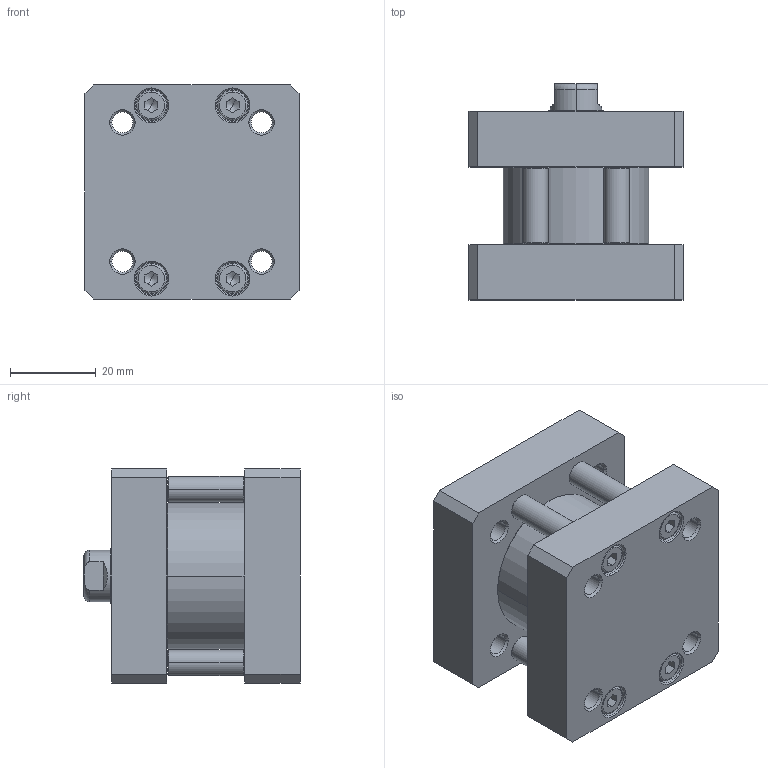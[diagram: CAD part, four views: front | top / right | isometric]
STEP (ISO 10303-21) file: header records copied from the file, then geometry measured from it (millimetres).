
FILE_DESCRIPTION(('STEP AP203'),'1');
FILE_NAME('84M32G000 - course 0mm.stp','2022-05-30T09:18:42',(' '),(' '),'Spatial InterOp 3D',' ',' ');
FILE_SCHEMA(('CONFIG_CONTROL_DESIGN'));
Length unit declared in the file: metre
Products named in the file (6): 84M32G000 - course 0mm; CORPO-000; STELO-000; TA; TIRANTE-000; TP
Assembly tree (8 placements, depth 2):
  84M32G000 - course 0mm
    CORPO-000
    STELO-000
    TA
    TIRANTE-000  x4
    TP
Bounding box: 50 x 50.5 x 50 mm (x, y, z)
Volume: 64750.7 mm3; surface area: 27341.1 mm2
Topology: 8 solids, 17 shells, 405 faces, 952 edges, 579 vertices
Faces by surface type: cone 162, plane 111, cylinder 108, torus 24
Entity records: 11516 total; most frequent: CARTESIAN_POINT 2661, DIRECTION 1892, ORIENTED_EDGE 1692, EDGE_CURVE 846, AXIS2_PLACEMENT_3D 754, VERTEX_POINT 531, EDGE_LOOP 427, LINE 384
